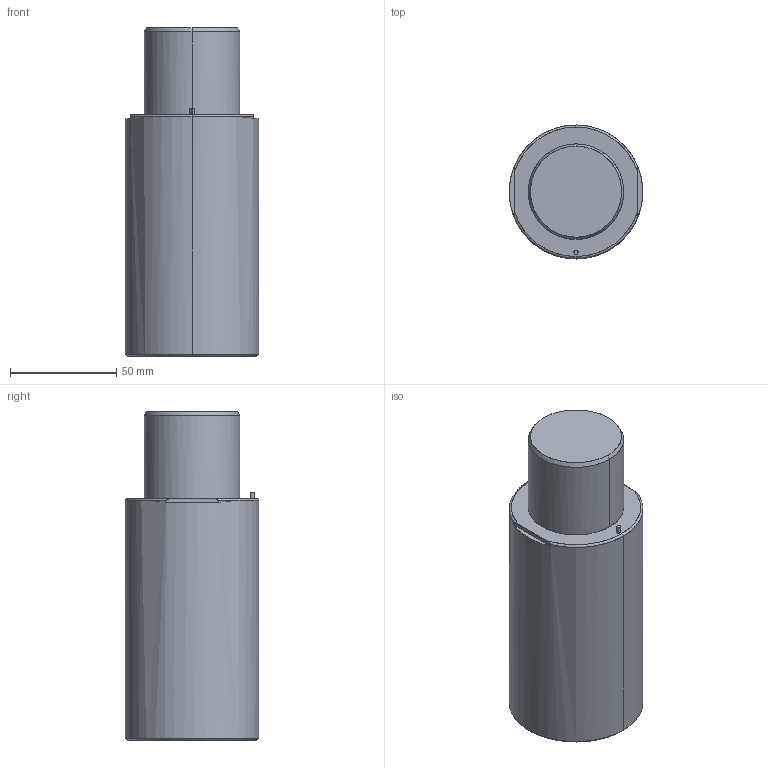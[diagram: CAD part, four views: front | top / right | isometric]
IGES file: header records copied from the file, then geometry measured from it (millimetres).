
Global section: file name: E:\UnigraphicsGraphicData\MISUMI_PRESS-PARTS\IGES\3d_gsx63-38_03964_r00.igs; native system: NX V5.0; preprocessor: UGS NX IGES V5.0; author: MISUMI; date: 20110105.160831; units: millimetre
Bounding box: 63 x 63 x 155 mm (x, y, z)
Surface area: 36005.2 mm2 (no closed solid volume)
Topology: 0 solids, 0 shells, 59 faces, 428 edges, 420 vertices
Faces by surface type: bspline 59
